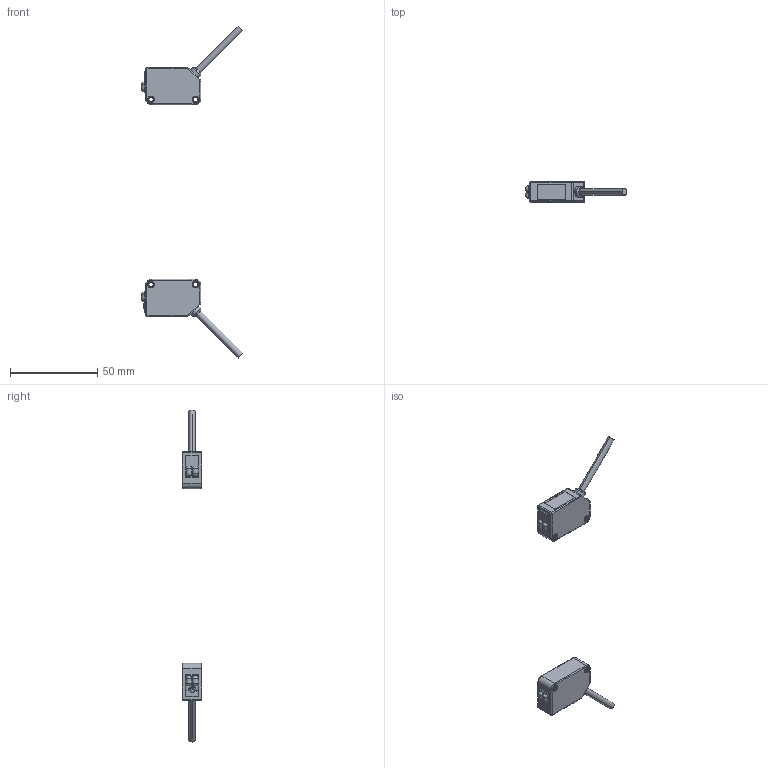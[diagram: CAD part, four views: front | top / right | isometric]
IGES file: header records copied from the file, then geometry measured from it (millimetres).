
Start section:  PTC IGES file: ZL-T10.igs
Global section: file name: ZL-T10.igs; native system: Pro/ENGINEER by Parametric Technology Corporation; preprocessor: 2010020; author: Administrator; organization: Unknown; date: 20180521.160021; units: millimetre
Bounding box: 57.87 x 11.4 x 189.94 mm (x, y, z)
Volume: 12457.2 mm3; surface area: 10257.5 mm2
Topology: 2 solids, 15 shells, 965 faces, 2623 edges, 1704 vertices
Faces by surface type: bspline 520, revolution 439, extrusion 6
